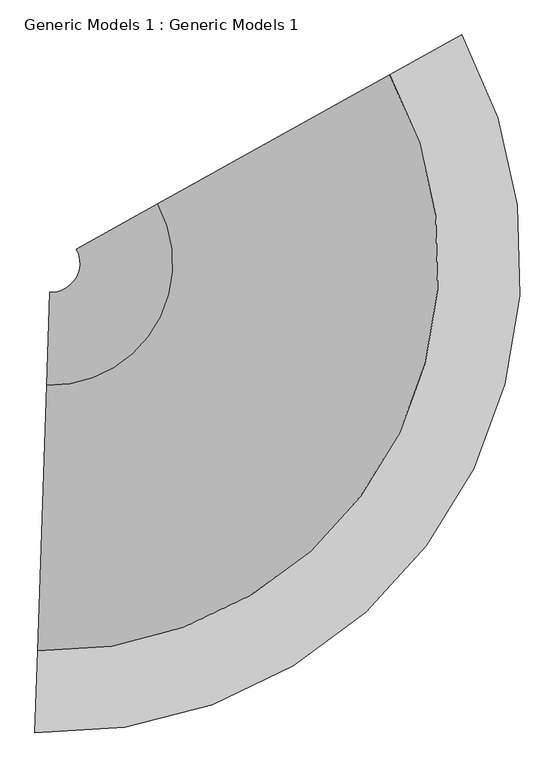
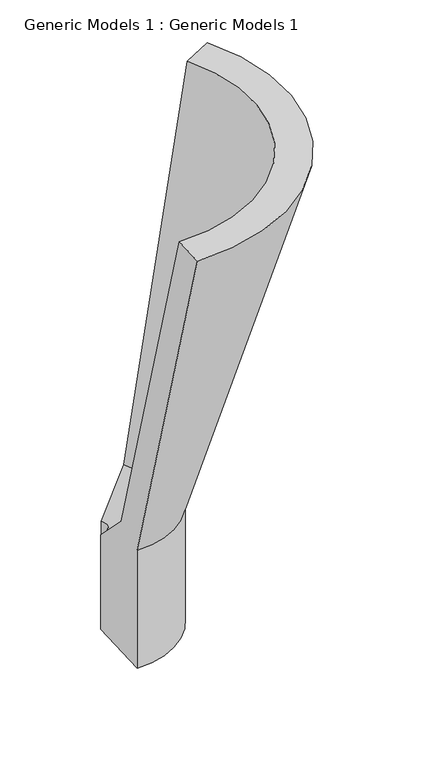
"""IFC4 building model written with IfcOpenShell, lengths in millimetres: proxy geometry, Generic Models 1 : Generic Models 1."""

from ifc_helpers import new_model, si_unit, frame, origin, place, context, project, spatial, polyline, circle_curve, source, transform, mapped, element, save
from ifc_brep_helpers import plane_surface, cylinder_surface, revolved_surface, advanced_brep


def generic_models_1_generic_models_1_35054e6f(model_context):
    return source(origin(), model_context, "Body", "AdvancedBrep", [
        advanced_brep(
        [(16345.3561369, 5036.7531606, -2175.0), (16908.9628815, 5349.5980106, 0.0), (17083.4526423, 5446.4531735, 0.0), (16500.1831405, 5122.6939894, -2250.8800306), (16500.1831405, 5122.6939894, -3000.0), (16148.630753, 4927.5555263, -3000.0), (16148.630753, 4927.5555263, -2400.0), (16076.5881511, 4597.3587728, -2175.0), (16084.2052984, 4822.2298004, -2400.0), (16084.2052984, 4822.2298004, -3000.0), (16070.5932964, 4420.3805571, -3000.0), (16070.5932964, 4420.3805571, -2250.8800306), (16048.009278, 3753.6622634, 0.0), (16054.7654687, 3953.1164012, 0.0)],
        [
            (0, 1),
            (1, 2),
            (2, 3),
            (3, 4),
            (4, 5),
            (5, 6),
            (6, 0),
            (7, 8),
            (8, 9),
            (9, 10),
            (10, 11),
            (11, 12),
            (12, 13),
            (13, 7),
            (13, 1, circle_curve(frame((16086.6068453, 4893.1275137, 0.0), z_axis=(0.0, 0.0, 1.0), x_axis=(0.8743350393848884, 0.48532281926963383, 0.0)), 940.5502457)),
            (0, 7, circle_curve(frame((16086.6068453, 4893.1275137, -2175.0), z_axis=(0.0, 0.0, -1.0), x_axis=(0.8743350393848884, 0.48532281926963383, 0.0)), 295.9383759)),
            (12, 2, circle_curve(frame((16086.6068453, 4893.1275137, 0.0), z_axis=(0.0, 0.0, 1.0), x_axis=(0.8743350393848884, 0.48532281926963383, 0.0)), 1140.1187784)),
            (11, 3, circle_curve(frame((16086.6068453, 4893.1275137, -2250.8800306), z_axis=(0.0, 0.0, 1.0), x_axis=(0.8743350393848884, 0.48532281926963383, 0.0)), 473.0180955)),
            (10, 4, circle_curve(frame((16086.6068453, 4893.1275137, -3000.0), z_axis=(0.0, 0.0, 1.0), x_axis=(0.8743350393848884, 0.48532281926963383, 0.0)), 473.0180955)),
            (9, 5, circle_curve(frame((16086.6068453, 4893.1275137, -3000.0), z_axis=(0.0, 0.0, 1.0), x_axis=(0.8743350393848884, 0.48532281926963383, 0.0)), 70.9383759)),
            (8, 6, circle_curve(frame((16086.6068453, 4893.1275137, -2400.0), z_axis=(0.0, 0.0, 1.0), x_axis=(0.8743350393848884, 0.48532281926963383, 0.0)), 70.9383759)),
        ],
        [
            plane_surface(frame((16834.3436825, 5308.178648, 0.0), z_axis=(-0.48532281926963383, 0.8743350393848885, 0.0), x_axis=(0.0, 0.0, 1.0))),
            plane_surface(frame((16057.6547015, 4038.4114233, 0.0), z_axis=(-0.9994267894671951, 0.03385398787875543, 0.0), x_axis=(0.0, 0.0, 1.0))),
            revolved_surface(polyline([(16345.3561369, 5036.7531606, -2175.0), (16908.9628815, 5349.5980106, 0.0)]), (16086.6068453, 4893.1275137, 0.0), (0.0, 0.0, -1.0)),
            plane_surface(frame((16086.6068453, 4893.1275137, 0.0), z_axis=(0.0, 0.0, 1.0), x_axis=(0.8743350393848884, 0.48532281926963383, 0.0))),
            revolved_surface(polyline([(17083.4526423, 5446.4531735, 0.0), (16500.1831405, 5122.6939894, -2250.8800306)]), (16086.6068453, 4893.1275137, 0.0), (0.0, 0.0, -1.0)),
            cylinder_surface(frame((16086.6068453, 4893.1275137, 0.0), z_axis=(0.0, 0.0, -1.0), x_axis=(0.8743350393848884, 0.48532281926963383, 0.0)), 473.0180955),
            plane_surface(frame((16086.6068453, 4893.1275137, -3000.0), z_axis=(0.0, 0.0, -1.0), x_axis=(0.8743350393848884, 0.48532281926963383, 0.0))),
            revolved_surface(polyline([(16148.630752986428, 4927.555526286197, -3000.0), (16148.630752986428, 4927.555526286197, -2400.0)]), (16086.6068453, 4893.1275137, 0.0), (0.0, 0.0, -1.0)),
            revolved_surface(polyline([(16148.630753, 4927.5555263, -2400.0), (16345.3561369, 5036.7531606, -2175.0)]), (16086.6068453, 4893.1275137, 0.0), (0.0, 0.0, -1.0)),
        ],
        [
            (0, [[1, 2, 3, 4, 5, 6, 7]]),
            (1, [[8, 9, 10, 11, 12, 13, 14]]),
            (2, [[15, -1, 16, -14]]),
            (3, [[17, -2, -15, -13]]),
            (4, [[18, -3, -17, -12]]),
            (5, [[19, -4, -18, -11]]),
            (6, [[20, -5, -19, -10]]),
            (7, [[21, -6, -20, -9]]),
            (8, [[-16, -7, -21, -8]]),
        ],
    ),
    ])


if __name__ == "__main__":
    model = new_model("IFC4")
    model_context = context("Model", 3, world=origin())
    ifc_project = project(units=[si_unit("LENGTHUNIT", "METRE", prefix="MILLI")], contexts=[model_context])
    site = spatial("IfcSite", under=ifc_project)
    building = spatial("IfcBuilding", under=site)
    placement = place(None, origin())
    generic_models_1_generic_models_1_shape = generic_models_1_generic_models_1_35054e6f(model_context)
    element("IfcBuildingElementProxy", 1, Name="Generic Models 1 : Generic Models 1", ObjectType="Generic Models 1 : Generic Models 1", at=placement, inside=building, context=model_context, shape_type="MappedRepresentation", body=[
        mapped(generic_models_1_generic_models_1_shape, transform((0.0, 0.0, 0.0), x_axis=(1.0, 0.0, 0.0), y_axis=(0.0, 1.0, 0.0), z_axis=(0.0, 0.0, 1.0))),
    ])
    save(model, "model.ifc")
